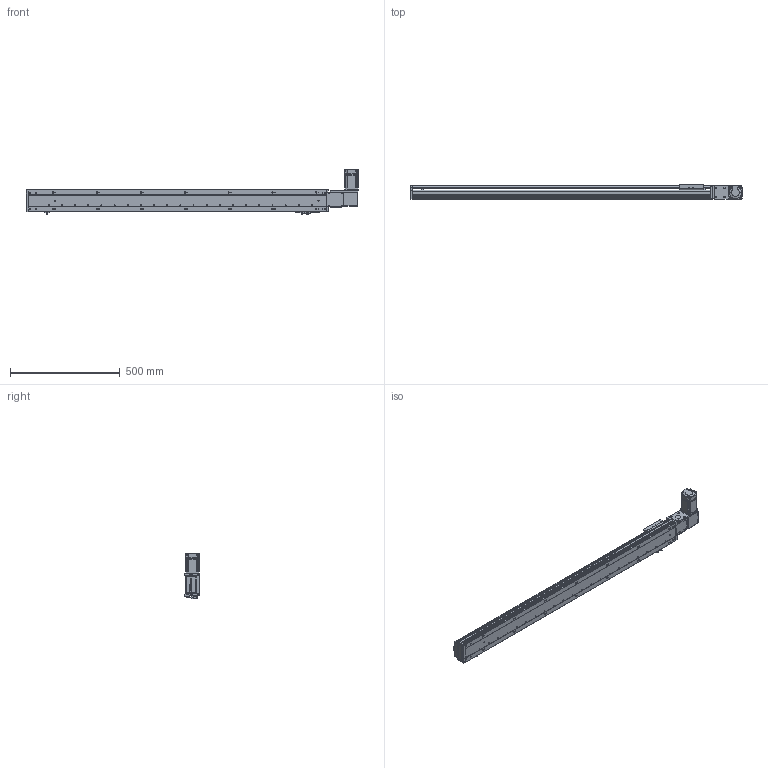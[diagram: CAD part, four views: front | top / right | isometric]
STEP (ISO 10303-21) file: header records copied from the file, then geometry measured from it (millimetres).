
FILE_DESCRIPTION (( 'STEP AP203' ), '1' );
FILE_NAME ('RY100-T-300-RK.SLDASM_1150.step', '2024-04-25T08:22:47', ( '盈信电脑' ), ( '东莞市道滘镇水果街19号' ), 'SwSTEP 2.0', 'SolidWorks 2016', '' );
FILE_SCHEMA (( 'CONFIG_CONTROL_DESIGN' ));
Length unit declared in the file: millimetre
Products named in the file (15): RY100-T左右折电机安装板; RY100-T肮祭謫翋盓傅釱; 覜茼ん672; RY100-T粣創揤踡裔; 滅袉蝶18-10; 侂狟200W萇儂; RY100-T-300-RK倰第菁釱_1150; RY80-T肮祭謫俋欶; RY100俋离覜茼え; RY100-T肮祭謫臏賑輸; RY100綴裔啣; 1; RY100-T-300-RK倰第奻裔_1150; RY100-T翋肮祭謫裔啣2; RY100-T-300-RK.SLDASM_1150
Assembly tree (18 placements, depth 3):
  RY100-T-300-RK.SLDASM_1150
    RY100-T-300-RK倰第菁釱_1150
    RY100-T-300-RK倰第奻裔_1150
    RY100-T肮祭謫臏賑輸
    RY100綴裔啣
    覜茼ん672  x3
    RY100俋离覜茼え
    RY100-T肮祭謫翋盓傅釱
    RY100-T左右折电机安装板
    侂狟200W萇儂
      1
    RY100-T粣創揤踡裔
    滅袉蝶18-10  x2
    RY100-T翋肮祭謫裔啣2  x2
    RY80-T肮祭謫俋欶
Bounding box: 1514 x 66 x 209.7 mm (x, y, z)
Volume: 2866478.7 mm3; surface area: 1184621.5 mm2
Topology: 17 solids, 17 shells, 2187 faces, 6087 edges, 3957 vertices
Faces by surface type: plane 1189, cylinder 789, cone 131, bspline 78
Entity records: 69905 total; most frequent: CARTESIAN_POINT 16859, ORIENTED_EDGE 10910, DIRECTION 10387, EDGE_CURVE 5455, VERTEX_POINT 3593, VECTOR 3531, LINE 3531, AXIS2_PLACEMENT_3D 3428
